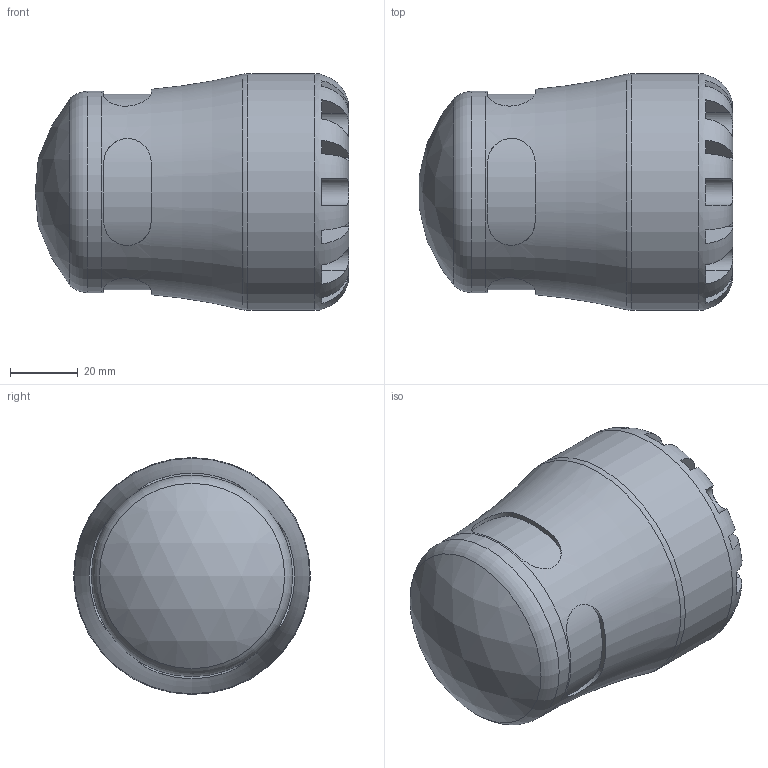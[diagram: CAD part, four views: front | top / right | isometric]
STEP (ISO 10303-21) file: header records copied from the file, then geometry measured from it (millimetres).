
FILE_DESCRIPTION(/* description */ ('PLASSON G-PLASS END CAP 40'),/* implementation_level */ '2;1');
FILE_NAME(/* name */ 'C:\Users\Kirill\Dropbox\99-16-3568-Processing\S1\151200\stp\151200040.stp',/* time_stamp */ '2023-10-21T22:52:17+04:00',/* author */ ('KIM'),/* organization */ (''),/* preprocessor_version */ 'ST-DEVELOPER v17.2',/* originating_system */ 'Autodesk Inventor 2019',/* authorisation */ '');
FILE_SCHEMA (('AUTOMOTIVE_DESIGN { 1 0 10303 214 3 1 1 }'));
Length unit declared in the file: millimetre
Products named in the file (1): 151200040
Bounding box: 92.7 x 70 x 70 mm (x, y, z)
Volume: 181796.3 mm3; surface area: 34181.9 mm2
Topology: 1 solids, 1 shells, 95 faces, 249 edges, 160 vertices
Faces by surface type: plane 57, cylinder 31, torus 4, sphere 2, cone 1
Full cylindrical faces by diameter (mm): 40 x1, 59.5 x1, 70 x1
Entity records: 3876 total; most frequent: CARTESIAN_POINT 1453, ORIENTED_EDGE 498, DIRECTION 478, EDGE_CURVE 249, AXIS2_PLACEMENT_3D 197, VERTEX_POINT 160, CIRCLE 101, EDGE_LOOP 99
